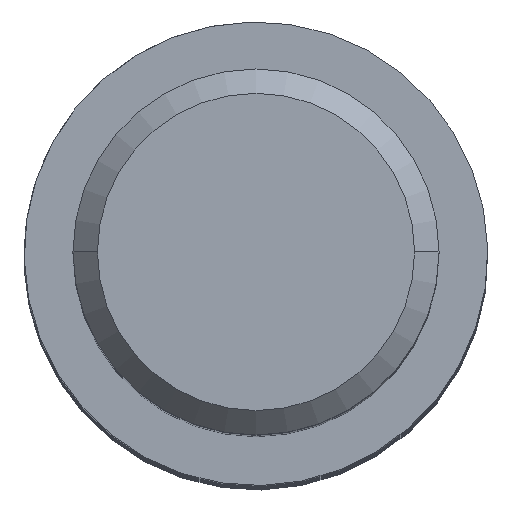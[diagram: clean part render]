
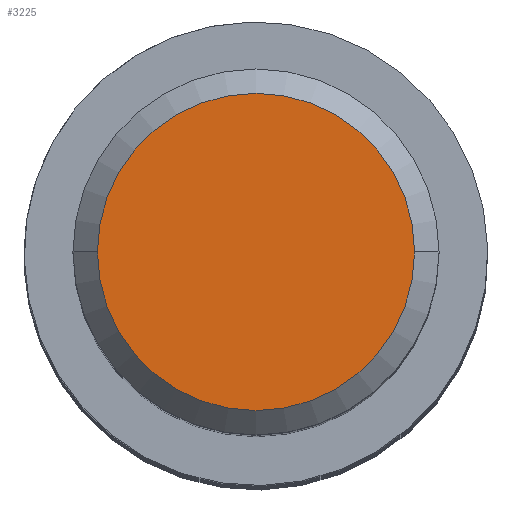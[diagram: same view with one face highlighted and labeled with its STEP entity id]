
A CAD part, top view. The second image highlights one B-rep face of the part: STEP entity #3225.
In plain terms, the highlighted planar face has unit normal (0, 0, 1).
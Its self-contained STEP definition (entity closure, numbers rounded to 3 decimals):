
#3205=AXIS2_PLACEMENT_3D('Plane Axis2P3D',#3202,#3203,#3204) ;
#3209=AXIS2_PLACEMENT_3D('Circle Axis2P3D',#3207,#3208,$) ;
#3218=AXIS2_PLACEMENT_3D('Circle Axis2P3D',#3216,#3217,$) ;
#3202=CARTESIAN_POINT('Axis2P3D Location',(0.,5.3,75.)) ;
#3207=CARTESIAN_POINT('Axis2P3D Location',(0.,0.,75.)) ;
#3211=CARTESIAN_POINT('Vertex',(3.25,0.,75.)) ;
#3213=CARTESIAN_POINT('Vertex',(-3.25,0.,75.)) ;
#3216=CARTESIAN_POINT('Axis2P3D Location',(0.,0.,75.)) ;
#3203=DIRECTION('Axis2P3D Direction',(0.,0.,-1.)) ;
#3204=DIRECTION('Axis2P3D XDirection',(1.,0.,0.)) ;
#3208=DIRECTION('Axis2P3D Direction',(0.,0.,-1.)) ;
#3217=DIRECTION('Axis2P3D Direction',(0.,0.,-1.)) ;
#3222=ORIENTED_EDGE('',*,*,#3215,.F.) ;
#3223=ORIENTED_EDGE('',*,*,#3220,.F.) ;
#3225=ADVANCED_FACE('\X2\96F64EF651E04F554F53\X0\',(#3224),#3206,.F.) ;
#3210=CIRCLE('generated circle',#3209,3.25) ;
#3219=CIRCLE('generated circle',#3218,3.25) ;
#3215=EDGE_CURVE('',#3212,#3214,#3210,.T.) ;
#3220=EDGE_CURVE('',#3214,#3212,#3219,.T.) ;
#3221=EDGE_LOOP('',(#3222,#3223)) ;
#3224=FACE_OUTER_BOUND('',#3221,.T.) ;
#3206=PLANE('Plane',#3205) ;
#3212=VERTEX_POINT('',#3211) ;
#3214=VERTEX_POINT('',#3213) ;
